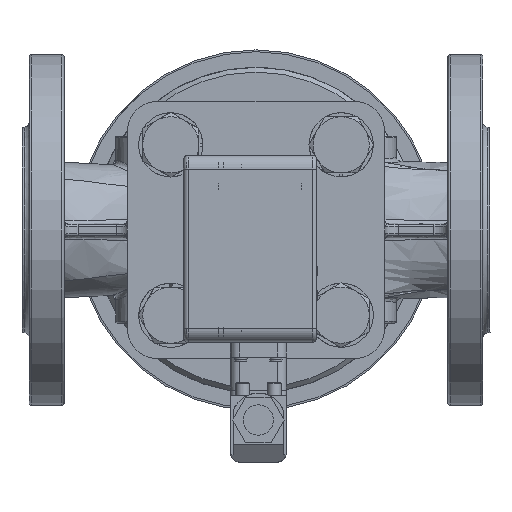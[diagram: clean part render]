
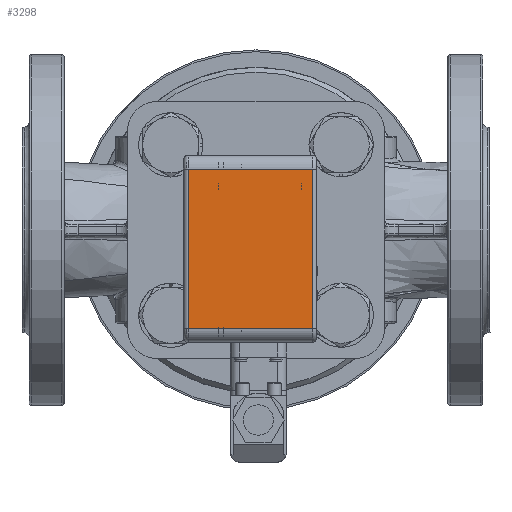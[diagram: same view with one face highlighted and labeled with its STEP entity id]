
A CAD part, front view. The second image highlights one B-rep face of the part: STEP entity #3298.
In plain terms, the highlighted planar face has unit normal (0, -1, 0).
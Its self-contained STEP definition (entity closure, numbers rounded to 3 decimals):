
#2959=CARTESIAN_POINT('',(-29.,-230.4,-42.));
#2960=VERTEX_POINT('',#2959);
#2968=CARTESIAN_POINT('',(-29.,-230.4,26.));
#2969=VERTEX_POINT('',#2968);
#2970=CARTESIAN_POINT('',(-29.,-230.4,-42.));
#2971=DIRECTION('',(0.0,0.0,1.0));
#2972=VECTOR('',#2971,68.0);
#2973=LINE('',#2970,#2972);
#2974=EDGE_CURVE('',#2960,#2969,#2973,.T.);
#3257=CARTESIAN_POINT('',(24.,-230.4,26.));
#3258=VERTEX_POINT('',#3257);
#3259=CARTESIAN_POINT('',(24.,-230.4,26.));
#3260=DIRECTION('',(-1.0,0.0,0.0));
#3261=VECTOR('',#3260,53.);
#3262=LINE('',#3259,#3261);
#3263=EDGE_CURVE('',#3258,#2969,#3262,.T.);
#3275=CARTESIAN_POINT('',(-14.,-230.4,32.));
#3276=DIRECTION('',(0.0,-1.0,0.0));
#3277=DIRECTION('',(-1.0,0.0,0.0));
#3278=AXIS2_PLACEMENT_3D('',#3275,#3276,#3277);
#3279=PLANE('',#3278);
#3280=ORIENTED_EDGE('',*,*,#3263,.T.);
#3281=ORIENTED_EDGE('',*,*,#2974,.F.);
#3282=CARTESIAN_POINT('',(24.,-230.4,-42.));
#3283=VERTEX_POINT('',#3282);
#3284=CARTESIAN_POINT('',(24.,-230.4,-42.));
#3285=DIRECTION('',(-1.0,0.0,0.0));
#3286=VECTOR('',#3285,53.);
#3287=LINE('',#3284,#3286);
#3288=EDGE_CURVE('',#3283,#2960,#3287,.T.);
#3289=ORIENTED_EDGE('',*,*,#3288,.F.);
#3290=CARTESIAN_POINT('',(24.,-230.4,26.));
#3291=DIRECTION('',(0.0,0.0,-1.0));
#3292=VECTOR('',#3291,68.);
#3293=LINE('',#3290,#3292);
#3294=EDGE_CURVE('',#3258,#3283,#3293,.T.);
#3295=ORIENTED_EDGE('',*,*,#3294,.F.);
#3296=EDGE_LOOP('',(#3280,#3281,#3289,#3295));
#3297=FACE_OUTER_BOUND('',#3296,.T.);
#3298=ADVANCED_FACE('',(#3297),#3279,.T.);
